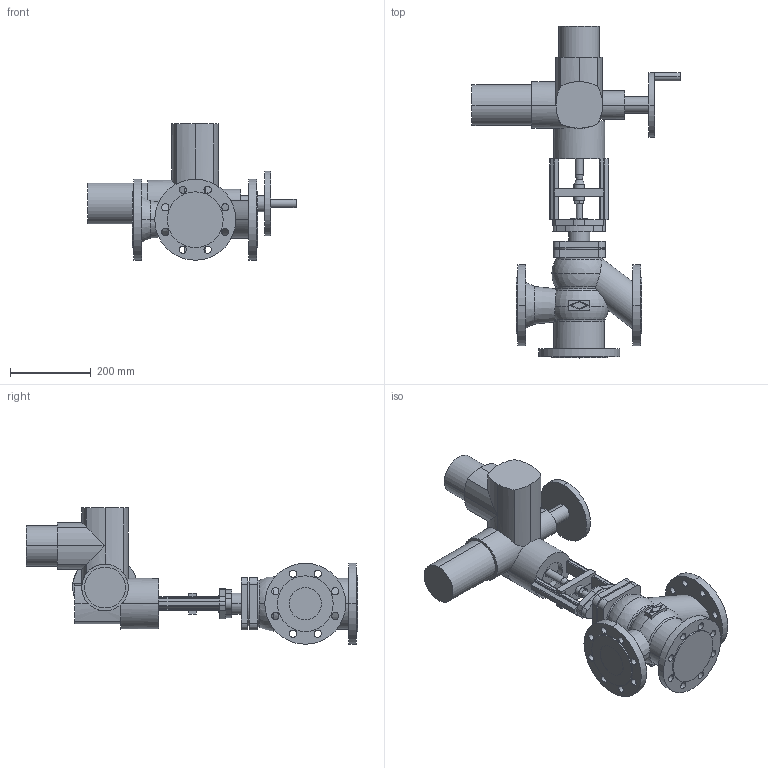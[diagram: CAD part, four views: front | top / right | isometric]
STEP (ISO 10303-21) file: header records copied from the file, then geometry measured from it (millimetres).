
FILE_DESCRIPTION(('OneSpaceDesigner STEP Export'),'2;1');
FILE_NAME('c000003152.stp','2007-01-24T 9:53:30',(''),(''),'OneSpace Designer STEP processor for AP214 (Solid Model)','OneSpace Designer 14.00B 27-May-2006 (C) CoCreate Software GmbH','');
FILE_SCHEMA(('AUTOMOTIVE_DESIGN { 1 0 10303 214 1 1 1 1 }'));
Length unit declared in the file: millimetre
Products named in the file (2): 1; 2
Bounding box: 514 x 819.5 x 337 mm (x, y, z)
Volume: 15248109.6 mm3; surface area: 864983.4 mm2
Topology: 2 solids, 2 shells, 317 faces, 832 edges, 532 vertices
Faces by surface type: cylinder 164, plane 131, torus 10, cone 8, sphere 4
Entity records: 9316 total; most frequent: CARTESIAN_POINT 2051, ORIENTED_EDGE 1656, DIRECTION 1324, EDGE_CURVE 828, VERTEX_POINT 532, AXIS2_PLACEMENT_3D 454, VECTOR 416, LINE 416
